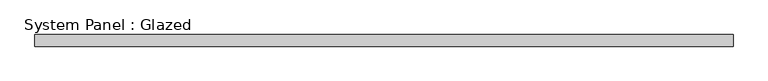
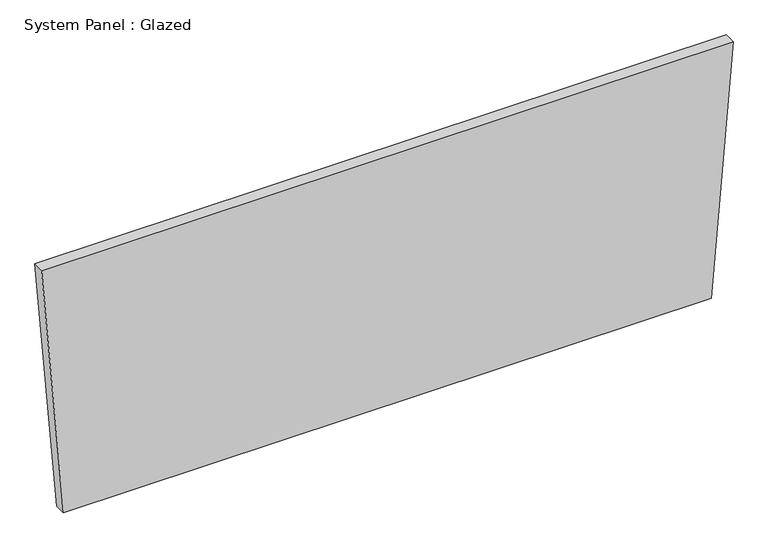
"""IFC4 building model written with IfcOpenShell, lengths in millimetres: plate geometry, System Panel : Glazed."""

from ifc_helpers import new_model, si_unit, frame, origin, place, context, project, spatial, polyline, outline, extrude, source, transform, mapped, element, save


def system_panel_glazed_079fee55(model_context):
    return source(origin(), model_context, "Body", "SweptSolid", [
        extrude(outline(polyline([(0.0, -715.1421438), (0.0, 715.1421438), (582.1079843, 763.4923787), (582.1079843, -763.4923787), (0.0, -715.1421438)])), frame((0.0, -44.45, 0.0), z_axis=(0.0, 1.0, 0.0), x_axis=(0.0, 0.0, 1.0)), (0.0, 0.0, 1.0), 25.4),
    ])


if __name__ == "__main__":
    model = new_model("IFC4")
    model_context = context("Model", 3, world=origin())
    ifc_project = project(units=[si_unit("LENGTHUNIT", "METRE", prefix="MILLI")], contexts=[model_context])
    site = spatial("IfcSite", under=ifc_project)
    building = spatial("IfcBuilding", under=site)
    placement = place(None, origin())
    system_panel_glazed_shape = system_panel_glazed_079fee55(model_context)
    element("IfcPlate", 1, ObjectType="System Panel : Glazed", at=placement, inside=building, context=model_context, shape_type="MappedRepresentation", body=[
        mapped(system_panel_glazed_shape, transform((0.0, 0.0, 0.0), x_axis=(1.0, 0.0, 0.0), y_axis=(0.0, 1.0, 0.0), z_axis=(0.0, 0.0, 1.0))),
    ])
    save(model, "model.ifc")
